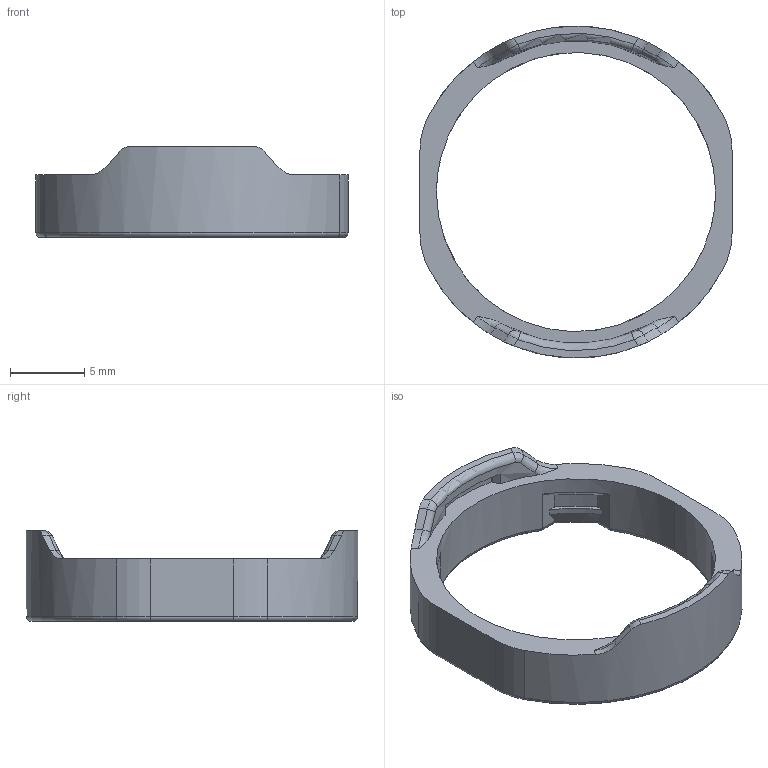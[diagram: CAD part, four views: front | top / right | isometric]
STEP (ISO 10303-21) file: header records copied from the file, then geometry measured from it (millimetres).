
FILE_DESCRIPTION(('CATIA V5 STEP Exchange'),'2;1');
FILE_NAME('C:\Users\dujian\Desktop\DJI_O4_Pro_ND.stp','2025-03-05T02:14:34+00:00',('none'),('none'),'CATIA Version 5 Release 21 GA (IN-10)','CATIA V5 STEP AP203','none');
FILE_SCHEMA(('CONFIG_CONTROL_DESIGN'));
Length unit declared in the file: millimetre
Products named in the file (1): DJI_O4_Pro_ND 
Bounding box: 21 x 22.33 x 6.1 mm (x, y, z)
Volume: 461.8 mm3; surface area: 834.7 mm2
Topology: 1 solids, 1 shells, 106 faces, 290 edges, 186 vertices
Faces by surface type: cylinder 38, plane 32, torus 16, bspline 12, cone 8
Entity records: 3908 total; most frequent: CARTESIAN_POINT 1507, ORIENTED_EDGE 580, DIRECTION 336, EDGE_CURVE 290, VERTEX_POINT 186, AXIS2_PLACEMENT_3D 155, B_SPLINE_CURVE_WITH_KNOTS 110, EDGE_LOOP 108
